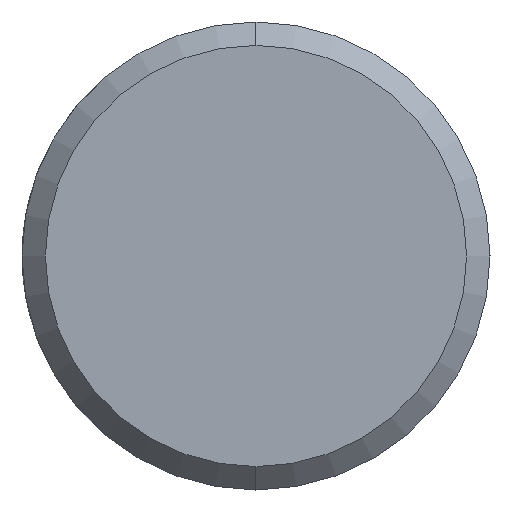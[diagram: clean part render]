
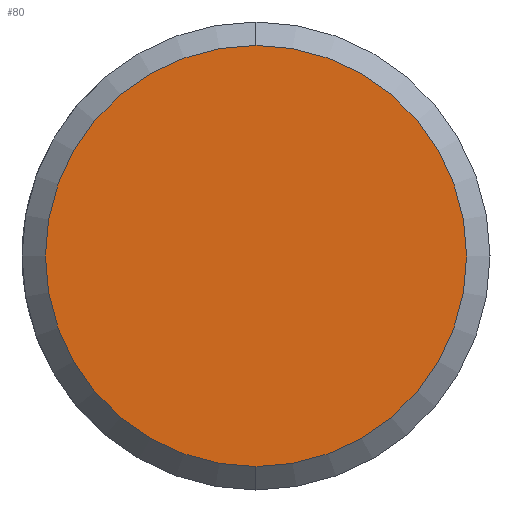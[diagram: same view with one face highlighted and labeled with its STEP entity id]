
A CAD part, left-side view. The second image highlights one B-rep face of the part: STEP entity #80.
In plain terms, the highlighted planar face has unit normal (-1, 0, 0).
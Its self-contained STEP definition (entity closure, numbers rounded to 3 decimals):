
#22 = EDGE_CURVE ( 'NONE', #175, #274, #262, .T. ) ;
#32 = CARTESIAN_POINT ( 'NONE',  ( -47., 0., -1.8 ) ) ;
#59 = ORIENTED_EDGE ( 'NONE', *, *, #211, .F. ) ;
#73 = AXIS2_PLACEMENT_3D ( 'NONE', #185, #119, #165 ) ;
#77 = DIRECTION ( 'NONE',  ( 1., 0., 0. ) ) ;
#80 = ADVANCED_FACE ( 'NONE', ( #93 ), #234, .T. ) ;
#93 = FACE_OUTER_BOUND ( 'NONE', #310, .T. ) ;
#119 = DIRECTION ( 'NONE',  ( -1., 0., 0. ) ) ;
#151 = DIRECTION ( 'NONE',  ( 0., 0., -1. ) ) ;
#165 = DIRECTION ( 'NONE',  ( 0., 0., 1. ) ) ;
#168 = CIRCLE ( 'NONE', #290, 1.8 ) ;
#175 = VERTEX_POINT ( 'NONE', #32 ) ;
#185 = CARTESIAN_POINT ( 'NONE',  ( -47., 0., 0. ) ) ;
#187 = DIRECTION ( 'NONE',  ( 1., 0., 0. ) ) ;
#196 = CARTESIAN_POINT ( 'NONE',  ( -47., 0., 1.8 ) ) ;
#211 = EDGE_CURVE ( 'NONE', #274, #175, #168, .T. ) ;
#213 = DIRECTION ( 'NONE',  ( 0., 0., -1. ) ) ;
#234 = PLANE ( 'NONE',  #73 ) ;
#248 = ORIENTED_EDGE ( 'NONE', *, *, #22, .F. ) ;
#262 = CIRCLE ( 'NONE', #313, 1.8 ) ;
#266 = CARTESIAN_POINT ( 'NONE',  ( -47., 0., 0. ) ) ;
#274 = VERTEX_POINT ( 'NONE', #196 ) ;
#287 = CARTESIAN_POINT ( 'NONE',  ( -47., 0., 0. ) ) ;
#290 = AXIS2_PLACEMENT_3D ( 'NONE', #266, #77, #151 ) ;
#310 = EDGE_LOOP ( 'NONE', ( #248, #59 ) ) ;
#313 = AXIS2_PLACEMENT_3D ( 'NONE', #287, #187, #213 ) ;
